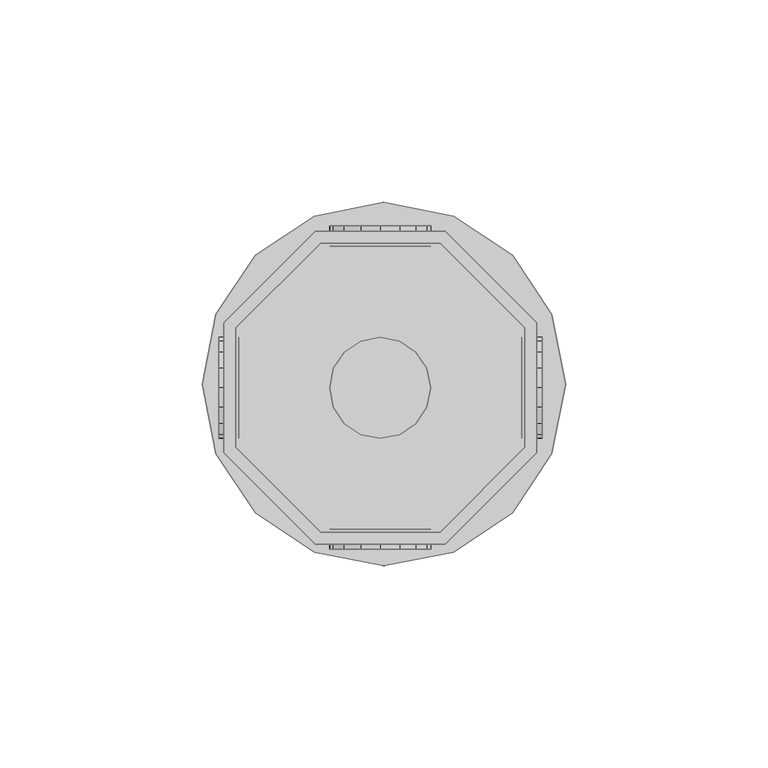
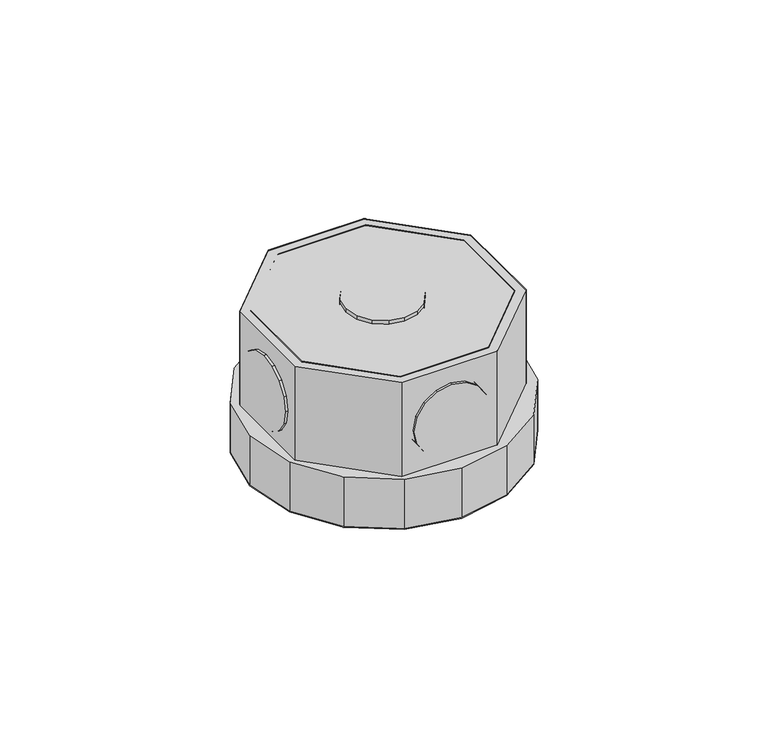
"""IFC4 building model written with IfcOpenShell, lengths in millimetres: light fixture geometry,  212992 :  212992."""

from ifc_helpers import new_model, si_unit, origin, place, context, project, spatial, triangles, source, transform, mapped, element, save


def light_fixture_7da17104(model_context):
    return source(origin(), model_context, "Body", "Tessellation", [
        triangles([(4214.1000435, 9839.6005646, 2924.5999741), (4214.1000435, 9810.0000458, 2975.400071), (4214.1000435, 9810.0000458, 2924.5999741), (4214.1000435, 9839.6005646, 2975.400071), (4288.5998566, 9840.8004913, 2924.5999741), (4288.5998566, 9808.7001251, 2975.400071), (4288.5998566, 9808.7001251, 2924.5999741), (4288.5998566, 9840.8004913, 2975.400071), (4235.0999245, 9789.0001648, 2975.400071), (4235.0999245, 9789.0001648, 2924.5999741), (4265.9000793, 9863.5002686, 2924.5999741), (4265.9000793, 9863.5002686, 2975.400071), (4264.6998619, 9789.0001648, 2975.400071), (4264.6998619, 9789.0001648, 2924.5999741), (4233.8000038, 9863.5002686, 2924.5999741), (4233.8000038, 9863.5002686, 2975.400071), (4285.6000397, 9810.0000458, 2975.400071), (4285.6000397, 9810.0000458, 2924.5999741), (4211.0999359, 9840.8004913, 2924.5999741), (4211.0999359, 9840.8004913, 2975.400071), (4285.6000397, 9839.6005646, 2924.5999741), (4285.6000397, 9839.6005646, 2975.400071), (4211.0999359, 9808.7001251, 2975.400071), (4211.0999359, 9808.7001251, 2924.5999741), (4264.6998619, 9860.5004517, 2924.5999741), (4264.6998619, 9860.5004517, 2975.400071), (4233.8000038, 9786.0003479, 2975.400071), (4233.8000038, 9786.0003479, 2924.5999741), (4265.9000793, 9786.0003479, 2975.400071), (4235.0999245, 9860.5004517, 2975.400071), (4235.0999245, 9860.5004517, 2924.5999741), (4265.9000793, 9786.0003479, 2924.5999741), (4264.6998619, 9789.0001648, 2972.3999634), (4285.6000397, 9810.0000458, 2972.3999634), (4285.6000397, 9839.6005646, 2972.3999634), (4264.6998619, 9860.5004517, 2972.3999634), (4235.0999245, 9860.5004517, 2972.3999634), (4214.1000435, 9839.6005646, 2972.3999634), (4214.1000435, 9810.0000458, 2972.3999634), (4235.0999245, 9789.0001648, 2972.3999634), (4233.8000038, 9786.0003479, 2942.4000504), (4211.0999359, 9808.7001251, 2942.4000504), (4211.0999359, 9840.8004913, 2942.4000504), (4233.8000038, 9863.5002686, 2942.4000504), (4265.9000793, 9863.5002686, 2942.4000504), (4288.5998566, 9840.8004913, 2942.4000504), (4288.5998566, 9808.7001251, 2942.4000504), (4265.9000793, 9786.0003479, 2942.4000504), (4292.2999214, 9808.4001434, 2942.4000504), (4267.9999512, 9784.1004639, 2942.4000504), (4282.5999321, 9793.7998718, 2942.4000504), (4250.8001289, 9780.6995087, 2942.4000504), (4233.5000221, 9784.1004639, 2942.4000504), (4218.9000412, 9793.7998718, 2942.4000504), (4209.2000519, 9808.4001434, 2942.4000504), (4205.7999687, 9825.7002502, 2942.4000504), (4209.2000519, 9842.9003632, 2942.4000504), (4233.5000221, 9867.2000427, 2942.4000504), (4218.9000412, 9857.499472, 2942.4000504), (4295.7999985, 9825.7002502, 2942.4000504), (4292.2999214, 9842.9003632, 2942.4000504), (4282.5999321, 9857.499472, 2942.4000504), (4267.9999512, 9867.2000427, 2942.4000504), (4250.8001289, 9870.6998291, 2942.4000504), (4267.9999512, 9784.1004639, 2924.5999741), (4292.2999214, 9808.4001434, 2924.5999741), (4282.5999321, 9793.7998718, 2924.5999741), (4250.8001289, 9780.6995087, 2924.5999741), (4233.5000221, 9784.1004639, 2924.5999741), (4218.9000412, 9793.7998718, 2924.5999741), (4209.2000519, 9808.4001434, 2924.5999741), (4205.7999687, 9825.7002502, 2924.5999741), (4209.2000519, 9842.9003632, 2924.5999741), (4233.5000221, 9867.2000427, 2924.5999741), (4218.9000412, 9857.499472, 2924.5999741), (4295.7999985, 9825.7002502, 2924.5999741), (4292.2999214, 9842.9003632, 2924.5999741), (4282.5999321, 9857.499472, 2924.5999741), (4267.9999512, 9867.2000427, 2924.5999741), (4250.8001289, 9870.6998291, 2924.5999741), (4209.9000092, 9813.1998505, 2952.6000092), (4209.9000092, 9819.9994354, 2945.9001274), (4209.9000092, 9815.8996857, 2948.5999626), (4209.9000092, 9812.2999054, 2957.4000069), (4209.9000092, 9824.8003052, 2944.8998978), (4209.9000092, 9813.1998505, 2962.2000046), (4209.9000092, 9829.6000122, 2945.9001274), (4209.9000092, 9815.8996857, 2966.2000511), (4209.9000092, 9833.5997681, 2948.5999626), (4209.9000092, 9819.9994354, 2968.8998863), (4209.9000092, 9836.2996033, 2952.6000092), (4209.9000092, 9824.8003052, 2969.900116), (4209.9000092, 9837.2995422, 2957.4000069), (4209.9000092, 9829.6000122, 2968.8998863), (4209.9000092, 9836.2996033, 2962.2000046), (4209.9000092, 9833.5997681, 2966.2000511), (4214.8999947, 9819.9994354, 2945.9001274), (4214.8999947, 9813.1998505, 2952.6000092), (4214.8999947, 9815.8996857, 2948.5999626), (4214.8999947, 9824.8003052, 2944.8998978), (4214.8999947, 9812.2999054, 2957.4000069), (4214.8999947, 9829.6000122, 2945.9001274), (4214.8999947, 9813.1998505, 2962.2000046), (4214.8999947, 9833.5997681, 2948.5999626), (4214.8999947, 9815.8996857, 2966.2000511), (4214.8999947, 9819.9994354, 2968.8998863), (4214.8999947, 9836.2996033, 2952.6000092), (4214.8999947, 9824.8003052, 2969.900116), (4214.8999947, 9837.2995422, 2957.4000069), (4214.8999947, 9829.6000122, 2968.8998863), (4214.8999947, 9836.2996033, 2962.2000046), (4214.8999947, 9833.5997681, 2966.2000511), (4284.9000824, 9813.1998505, 2952.6000092), (4284.9000824, 9819.9994354, 2945.9001274), (4284.9000824, 9815.8996857, 2948.5999626), (4284.9000824, 9812.2999054, 2957.4000069), (4284.9000824, 9824.8003052, 2944.8998978), (4284.9000824, 9813.1998505, 2962.2000046), (4284.9000824, 9829.6000122, 2945.9001274), (4284.9000824, 9815.8996857, 2966.2000511), (4284.9000824, 9833.5997681, 2948.5999626), (4284.9000824, 9819.9994354, 2968.8998863), (4284.9000824, 9836.2996033, 2952.6000092), (4284.9000824, 9824.8003052, 2969.900116), (4284.9000824, 9837.2995422, 2957.4000069), (4284.9000824, 9829.6000122, 2968.8998863), (4284.9000824, 9836.2996033, 2962.2000046), (4284.9000824, 9833.5997681, 2966.2000511), (4289.9000679, 9819.9994354, 2945.9001274), (4289.9000679, 9813.1998505, 2952.6000092), (4289.9000679, 9815.8996857, 2948.5999626), (4289.9000679, 9824.8003052, 2944.8998978), (4289.9000679, 9812.2999054, 2957.4000069), (4289.9000679, 9829.6000122, 2945.9001274), (4289.9000679, 9813.1998505, 2962.2000046), (4289.9000679, 9833.5997681, 2948.5999626), (4289.9000679, 9815.8996857, 2966.2000511), (4289.9000679, 9819.9994354, 2968.8998863), (4289.9000679, 9836.2996033, 2952.6000092), (4289.9000679, 9824.8003052, 2969.900116), (4289.9000679, 9837.2995422, 2957.4000069), (4289.9000679, 9829.6000122, 2968.8998863), (4289.9000679, 9836.2996033, 2962.2000046), (4289.9000679, 9833.5997681, 2966.2000511), (4254.6998909, 9789.800116, 2945.9001274), (4261.4000633, 9789.800116, 2952.6000092), (4258.6999374, 9789.800116, 2948.5999626), (4249.8998932, 9789.800116, 2944.8998978), (4262.4000023, 9789.800116, 2957.4000069), (4245.0998955, 9789.800116, 2945.9001274), (4261.4000633, 9789.800116, 2962.2000046), (4240.999855, 9789.800116, 2948.5999626), (4258.6999374, 9789.800116, 2966.2000511), (4254.6998909, 9789.800116, 2968.8998863), (4238.3000198, 9789.800116, 2952.6000092), (4249.8998932, 9789.800116, 2969.900116), (4237.4000748, 9789.800116, 2957.4000069), (4245.0998955, 9789.800116, 2968.8998863), (4238.3000198, 9789.800116, 2962.2000046), (4240.999855, 9789.800116, 2966.2000511), (4261.4000633, 9784.8004211, 2952.6000092), (4254.6998909, 9784.8004211, 2945.9001274), (4258.6999374, 9784.8004211, 2948.5999626), (4262.4000023, 9784.8004211, 2957.4000069), (4249.8998932, 9784.8004211, 2944.8998978), (4261.4000633, 9784.8004211, 2962.2000046), (4245.0998955, 9784.8004211, 2945.9001274), (4258.6999374, 9784.8004211, 2966.2000511), (4240.999855, 9784.8004211, 2948.5999626), (4254.6998909, 9784.8004211, 2968.8998863), (4238.3000198, 9784.8004211, 2952.6000092), (4249.8998932, 9784.8004211, 2969.900116), (4237.4000748, 9784.8004211, 2957.4000069), (4245.0998955, 9784.8004211, 2968.8998863), (4238.3000198, 9784.8004211, 2962.2000046), (4240.999855, 9784.8004211, 2966.2000511), (4254.6998909, 9864.8001892, 2945.9001274), (4261.4000633, 9864.8001892, 2952.6000092), (4258.6999374, 9864.8001892, 2948.5999626), (4249.8998932, 9864.8001892, 2944.8998978), (4262.4000023, 9864.8001892, 2957.4000069), (4245.0998955, 9864.8001892, 2945.9001274), (4261.4000633, 9864.8001892, 2962.2000046), (4240.999855, 9864.8001892, 2948.5999626), (4258.6999374, 9864.8001892, 2966.2000511), (4254.6998909, 9864.8001892, 2968.8998863), (4238.3000198, 9864.8001892, 2952.6000092), (4249.8998932, 9864.8001892, 2969.900116), (4237.4000748, 9864.8001892, 2957.4000069), (4245.0998955, 9864.8001892, 2968.8998863), (4238.3000198, 9864.8001892, 2962.2000046), (4240.999855, 9864.8001892, 2966.2000511), (4261.4000633, 9859.8004944, 2952.6000092), (4254.6998909, 9859.8004944, 2945.9001274), (4258.6999374, 9859.8004944, 2948.5999626), (4262.4000023, 9859.8004944, 2957.4000069), (4249.8998932, 9859.8004944, 2944.8998978), (4261.4000633, 9859.8004944, 2962.2000046), (4245.0998955, 9859.8004944, 2945.9001274), (4258.6999374, 9859.8004944, 2966.2000511), (4240.999855, 9859.8004944, 2948.5999626), (4254.6998909, 9859.8004944, 2968.8998863), (4238.3000198, 9859.8004944, 2952.6000092), (4249.8998932, 9859.8004944, 2969.900116), (4237.4000748, 9859.8004944, 2957.4000069), (4245.0998955, 9859.8004944, 2968.8998863), (4238.3000198, 9859.8004944, 2962.2000046), (4240.999855, 9859.8004944, 2966.2000511), (4261.4000633, 9819.9994354, 2976.9999733), (4254.6998909, 9813.1998505, 2976.9999733), (4258.6999374, 9815.8996857, 2976.9999733), (4249.8998932, 9812.2999054, 2976.9999733), (4262.4000023, 9824.8003052, 2976.9999733), (4245.0998955, 9813.1998505, 2976.9999733), (4261.4000633, 9829.6000122, 2976.9999733), (4240.999855, 9815.8996857, 2976.9999733), (4258.6999374, 9833.5997681, 2976.9999733), (4238.3000198, 9819.9994354, 2976.9999733), (4254.6998909, 9836.2996033, 2976.9999733), (4237.4000748, 9824.8003052, 2976.9999733), (4249.8998932, 9837.2995422, 2976.9999733), (4238.3000198, 9829.6000122, 2976.9999733), (4245.0998955, 9836.2996033, 2976.9999733), (4240.999855, 9833.5997681, 2976.9999733), (4254.6998909, 9813.1998505, 2971.9999878), (4261.4000633, 9819.9994354, 2971.9999878), (4258.6999374, 9815.8996857, 2971.9999878), (4249.8998932, 9812.2999054, 2971.9999878), (4262.4000023, 9824.8003052, 2971.9999878), (4245.0998955, 9813.1998505, 2971.9999878), (4261.4000633, 9829.6000122, 2971.9999878), (4240.999855, 9815.8996857, 2971.9999878), (4258.6999374, 9833.5997681, 2971.9999878), (4238.3000198, 9819.9994354, 2971.9999878), (4254.6998909, 9836.2996033, 2971.9999878), (4237.4000748, 9824.8003052, 2971.9999878), (4249.8998932, 9837.2995422, 2971.9999878), (4238.3000198, 9829.6000122, 2971.9999878), (4245.0998955, 9836.2996033, 2971.9999878), (4240.999855, 9833.5997681, 2971.9999878)], [[1, 2, 3], [2, 1, 4], [5, 6, 7], [6, 5, 8], [3, 9, 10], [9, 3, 2], [11, 8, 5], [8, 11, 12], [10, 13, 14], [13, 10, 9], [15, 12, 11], [12, 15, 16], [14, 17, 18], [17, 14, 13], [19, 16, 15], [16, 19, 20], [17, 21, 18], [21, 17, 22], [23, 19, 24], [19, 23, 20], [22, 25, 21], [25, 22, 26], [27, 24, 28], [24, 27, 23], [6, 13, 29], [29, 13, 27], [27, 13, 9], [27, 9, 23], [23, 9, 2], [23, 2, 4], [23, 4, 20], [20, 4, 30], [8, 17, 6], [6, 17, 13], [17, 8, 22], [12, 22, 8], [22, 12, 26], [30, 26, 12], [16, 30, 12], [20, 30, 16], [30, 1, 31], [1, 30, 4], [6, 32, 7], [32, 6, 29], [32, 14, 7], [28, 14, 32], [14, 28, 10], [24, 10, 28], [10, 24, 3], [1, 3, 24], [19, 1, 24], [31, 1, 19], [7, 18, 5], [14, 18, 7], [5, 18, 21], [5, 21, 11], [11, 21, 25], [11, 25, 31], [11, 31, 15], [15, 31, 19], [26, 31, 25], [31, 26, 30], [29, 28, 32], [28, 29, 27], [17, 33, 34], [33, 17, 13], [35, 17, 34], [17, 35, 22], [36, 22, 35], [22, 36, 26], [37, 26, 36], [26, 37, 30], [38, 30, 37], [30, 38, 4], [2, 38, 39], [38, 2, 4], [17, 9, 13], [9, 17, 22], [9, 22, 2], [2, 22, 26], [2, 26, 4], [4, 26, 30], [13, 40, 33], [40, 13, 9], [40, 34, 33], [35, 34, 40], [35, 40, 39], [35, 39, 36], [36, 39, 38], [36, 38, 37], [9, 39, 40], [39, 9, 2], [24, 41, 28], [41, 24, 42], [19, 42, 24], [42, 19, 43], [44, 19, 15], [19, 44, 43], [45, 15, 11], [15, 45, 44], [46, 11, 5], [11, 46, 45], [47, 5, 7], [5, 47, 46], [32, 47, 7], [47, 32, 48], [28, 48, 32], [48, 28, 41], [49, 50, 51], [48, 50, 49], [50, 48, 52], [41, 52, 48], [52, 41, 53], [53, 41, 54], [42, 54, 41], [54, 42, 55], [55, 42, 43], [55, 43, 56], [56, 43, 57], [57, 43, 44], [57, 44, 58], [57, 58, 59], [47, 49, 60], [49, 47, 48], [47, 60, 46], [61, 46, 60], [46, 61, 62], [46, 62, 45], [45, 62, 63], [44, 45, 63], [44, 63, 64], [44, 64, 58], [65, 66, 67], [66, 65, 32], [68, 32, 65], [32, 68, 28], [28, 68, 69], [70, 28, 69], [28, 70, 24], [71, 24, 70], [19, 24, 71], [19, 71, 72], [73, 19, 72], [19, 73, 15], [74, 15, 73], [74, 73, 75], [76, 66, 7], [32, 7, 66], [5, 76, 7], [76, 5, 77], [77, 5, 78], [11, 78, 5], [78, 11, 79], [79, 11, 15], [79, 15, 80], [80, 15, 74], [57, 75, 73], [75, 57, 59], [56, 73, 72], [73, 56, 57], [55, 72, 71], [72, 55, 56], [54, 71, 70], [71, 54, 55], [53, 70, 69], [70, 53, 54], [52, 69, 68], [69, 52, 53], [50, 68, 65], [68, 50, 52], [51, 65, 67], [65, 51, 50], [66, 51, 67], [51, 66, 49], [76, 49, 66], [49, 76, 60], [77, 60, 76], [60, 77, 61], [78, 61, 77], [61, 78, 62], [79, 62, 78], [62, 79, 63], [80, 63, 79], [63, 80, 64], [75, 58, 74], [58, 75, 59], [74, 64, 80], [64, 74, 58], [81, 82, 83], [82, 81, 84], [85, 82, 84], [85, 84, 86], [87, 85, 86], [87, 86, 88], [87, 88, 89], [89, 88, 90], [89, 90, 91], [91, 90, 92], [91, 92, 93], [93, 92, 94], [93, 94, 95], [95, 94, 96], [97, 98, 99], [98, 97, 100], [101, 98, 100], [101, 100, 102], [103, 101, 102], [103, 102, 104], [103, 104, 105], [105, 104, 106], [106, 104, 107], [106, 107, 108], [108, 107, 109], [108, 109, 110], [110, 109, 111], [110, 111, 112], [87, 104, 102], [104, 87, 89], [85, 102, 100], [102, 85, 87], [82, 100, 97], [100, 82, 85], [83, 97, 99], [97, 83, 82], [98, 83, 99], [83, 98, 81], [101, 81, 98], [81, 101, 84], [103, 84, 101], [84, 103, 86], [105, 86, 103], [86, 105, 88], [106, 88, 105], [88, 106, 90], [108, 90, 106], [90, 108, 92], [110, 92, 108], [92, 110, 94], [112, 94, 110], [94, 112, 96], [95, 112, 111], [112, 95, 96], [93, 111, 109], [111, 93, 95], [89, 107, 104], [107, 89, 91], [91, 109, 107], [109, 91, 93], [113, 114, 115], [114, 113, 116], [117, 114, 116], [117, 116, 118], [119, 117, 118], [119, 118, 120], [119, 120, 121], [121, 120, 122], [121, 122, 123], [123, 122, 124], [123, 124, 125], [125, 124, 126], [125, 126, 127], [127, 126, 128], [129, 130, 131], [130, 129, 132], [133, 130, 132], [133, 132, 134], [135, 133, 134], [135, 134, 136], [135, 136, 137], [137, 136, 138], [138, 136, 139], [138, 139, 140], [140, 139, 141], [140, 141, 142], [142, 141, 143], [142, 143, 144], [119, 136, 134], [136, 119, 121], [117, 134, 132], [134, 117, 119], [114, 132, 129], [132, 114, 117], [115, 129, 131], [129, 115, 114], [130, 115, 131], [115, 130, 113], [133, 113, 130], [113, 133, 116], [135, 116, 133], [116, 135, 118], [137, 118, 135], [118, 137, 120], [138, 120, 137], [120, 138, 122], [140, 122, 138], [122, 140, 124], [142, 124, 140], [124, 142, 126], [144, 126, 142], [126, 144, 128], [127, 144, 143], [144, 127, 128], [125, 143, 141], [143, 125, 127], [121, 139, 136], [139, 121, 123], [123, 141, 139], [141, 123, 125], [145, 146, 147], [146, 145, 148], [149, 146, 148], [149, 148, 150], [151, 149, 150], [151, 150, 152], [151, 152, 153], [153, 152, 154], [154, 152, 155], [154, 155, 156], [156, 155, 157], [156, 157, 158], [158, 157, 159], [158, 159, 160], [161, 162, 163], [162, 161, 164], [165, 162, 164], [165, 164, 166], [167, 165, 166], [167, 166, 168], [169, 167, 168], [169, 168, 170], [169, 170, 171], [171, 170, 172], [171, 172, 173], [173, 172, 174], [173, 174, 175], [175, 174, 176], [158, 176, 174], [176, 158, 160], [156, 174, 172], [174, 156, 158], [154, 172, 170], [172, 154, 156], [153, 170, 168], [170, 153, 154], [151, 168, 166], [168, 151, 153], [149, 166, 164], [166, 149, 151], [146, 164, 161], [164, 146, 149], [147, 161, 163], [161, 147, 146], [162, 147, 163], [147, 162, 145], [165, 145, 162], [145, 165, 148], [167, 148, 165], [148, 167, 150], [169, 150, 167], [150, 169, 152], [171, 152, 169], [152, 171, 155], [173, 155, 171], [155, 173, 157], [176, 159, 175], [159, 176, 160], [175, 157, 173], [157, 175, 159], [177, 178, 179], [178, 177, 180], [181, 178, 180], [181, 180, 182], [183, 181, 182], [183, 182, 184], [183, 184, 185], [185, 184, 186], [186, 184, 187], [186, 187, 188], [188, 187, 189], [188, 189, 190], [190, 189, 191], [190, 191, 192], [193, 194, 195], [194, 193, 196], [197, 194, 196], [197, 196, 198], [199, 197, 198], [199, 198, 200], [201, 199, 200], [201, 200, 202], [201, 202, 203], [203, 202, 204], [203, 204, 205], [205, 204, 206], [205, 206, 207], [207, 206, 208], [190, 208, 206], [208, 190, 192], [188, 206, 204], [206, 188, 190], [186, 204, 202], [204, 186, 188], [185, 202, 200], [202, 185, 186], [183, 200, 198], [200, 183, 185], [181, 198, 196], [198, 181, 183], [178, 196, 193], [196, 178, 181], [179, 193, 195], [193, 179, 178], [194, 179, 195], [179, 194, 177], [197, 177, 194], [177, 197, 180], [199, 180, 197], [180, 199, 182], [201, 182, 199], [182, 201, 184], [203, 184, 201], [184, 203, 187], [205, 187, 203], [187, 205, 189], [208, 191, 207], [191, 208, 192], [207, 189, 205], [189, 207, 191], [209, 210, 211], [212, 210, 209], [212, 209, 213], [214, 212, 213], [214, 213, 215], [216, 214, 215], [216, 215, 217], [216, 217, 218], [218, 217, 219], [218, 219, 220], [220, 219, 221], [220, 221, 222], [222, 221, 223], [222, 223, 224], [225, 226, 227], [226, 225, 228], [229, 226, 228], [229, 228, 230], [231, 229, 230], [231, 230, 232], [231, 232, 233], [233, 232, 234], [233, 234, 235], [235, 234, 236], [235, 236, 237], [237, 236, 238], [237, 238, 239], [239, 238, 240], [222, 240, 238], [240, 222, 224], [220, 238, 236], [238, 220, 222], [218, 236, 234], [236, 218, 220], [216, 234, 232], [234, 216, 218], [214, 232, 230], [232, 214, 216], [212, 230, 228], [230, 212, 214], [210, 228, 225], [228, 210, 212], [211, 225, 227], [225, 211, 210], [226, 211, 227], [211, 226, 209], [229, 209, 226], [209, 229, 213], [231, 213, 229], [213, 231, 215], [233, 215, 231], [215, 233, 217], [235, 217, 233], [217, 235, 219], [237, 219, 235], [219, 237, 221], [240, 223, 239], [223, 240, 224], [239, 221, 237], [221, 239, 223]], closed=False),
    ])


if __name__ == "__main__":
    model = new_model("IFC4")
    model_context = context("Model", 3, world=origin())
    ifc_project = project(units=[si_unit("LENGTHUNIT", "METRE", prefix="MILLI")], contexts=[model_context])
    site = spatial("IfcSite", under=ifc_project)
    building = spatial("IfcBuilding", under=site)
    placement = place(None, origin())
    light_fixture_shape = light_fixture_7da17104(model_context)
    element("IfcLightFixture", 1, ObjectType=" 212992 :  212992", at=placement, inside=building, context=model_context, shape_type="MappedRepresentation", body=[
        mapped(light_fixture_shape, transform((0.0, 0.0, 0.0), x_axis=(1.0, 0.0, 0.0), y_axis=(0.0, 1.0, 0.0), z_axis=(0.0, 0.0, 1.0))),
    ])
    save(model, "model.ifc")
